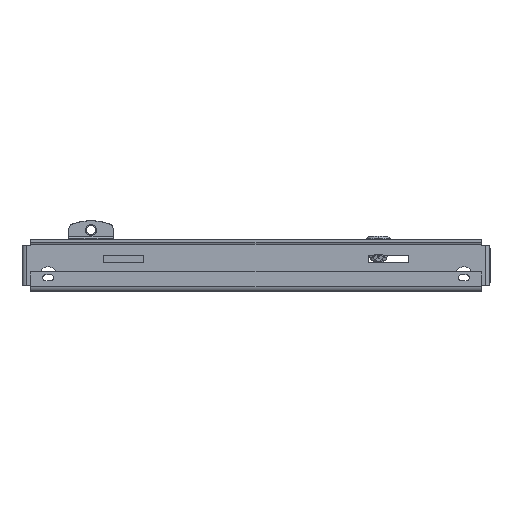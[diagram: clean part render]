
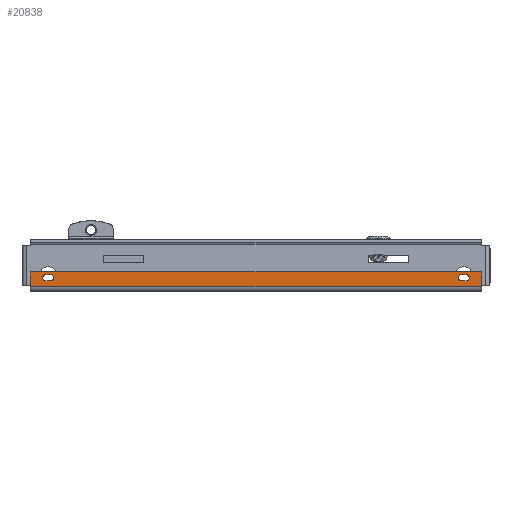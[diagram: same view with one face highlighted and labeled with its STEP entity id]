
A CAD part, front view. The second image highlights one B-rep face of the part: STEP entity #20838.
In plain terms, the highlighted planar face has unit normal (0, -1, 0) as drawn and (0, 0, -1) by its records, which use the part's own axes.
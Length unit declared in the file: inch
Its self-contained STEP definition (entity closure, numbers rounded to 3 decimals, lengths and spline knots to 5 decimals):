
#93 = CARTESIAN_POINT ( 'NONE',  ( 1.3165, 1.8855, 0. ) ) ;
#141 = VERTEX_POINT ( 'NONE', #621 ) ;
#145 = VERTEX_POINT ( 'NONE', #616 ) ;
#148 = VERTEX_POINT ( 'NONE', #609 ) ;
#149 = VERTEX_POINT ( 'NONE', #93 ) ;
#609 = CARTESIAN_POINT ( 'NONE',  ( 20.4495, 1.8855, 0. ) ) ;
#616 = CARTESIAN_POINT ( 'NONE',  ( 1.457, 1.745, 0. ) ) ;
#621 = CARTESIAN_POINT ( 'NONE',  ( 20.59, 1.745, 0. ) ) ;
#1000 = AXIS2_PLACEMENT_3D ( 'NONE', #4822, #4825, #4826 ) ;
#1003 = AXIS2_PLACEMENT_3D ( 'NONE', #4829, #4839, #4840 ) ;
#1011 = AXIS2_PLACEMENT_3D ( 'NONE', #4947, #4950, #4951 ) ;
#1012 = AXIS2_PLACEMENT_3D ( 'NONE', #4944, #4955, #4956 ) ;
#1026 = AXIS2_PLACEMENT_3D ( 'NONE', #5146, #5149, #5150 ) ;
#1037 = AXIS2_PLACEMENT_3D ( 'NONE', #5210, #5212, #5213 ) ;
#1452 = AXIS2_PLACEMENT_3D ( 'NONE', #10161, #10166, #10167 ) ;
#3847 = CIRCLE ( 'NONE', #1000, 0.1405 ) ;
#3856 = CIRCLE ( 'NONE', #1003, 0.1405 ) ;
#3936 = LINE ( 'NONE', #4940, #3937 ) ;
#3937 = VECTOR ( 'NONE', #4941, 39.37008 ) ;
#3946 = CIRCLE ( 'NONE', #1011, 0.1405 ) ;
#3949 = CIRCLE ( 'NONE', #1012, 0.1405 ) ;
#3985 = LINE ( 'NONE', #5008, #3986 ) ;
#3986 = VECTOR ( 'NONE', #5009, 39.37008 ) ;
#4115 = CIRCLE ( 'NONE', #1026, 0.1405 ) ;
#4119 = LINE ( 'NONE', #5157, #4120 ) ;
#4120 = VECTOR ( 'NONE', #5158, 39.37008 ) ;
#4151 = CIRCLE ( 'NONE', #1037, 0.1405 ) ;
#4192 = LINE ( 'NONE', #5291, #4201 ) ;
#4201 = VECTOR ( 'NONE', #5297, 39.37008 ) ;
#4822 = CARTESIAN_POINT ( 'NONE',  ( 20.4495, 1.745, 0. ) ) ;
#4825 = DIRECTION ( 'NONE',  ( 0., 0., 1. ) ) ;
#4826 = DIRECTION ( 'NONE',  ( 1., 0., 0. ) ) ;
#4829 = CARTESIAN_POINT ( 'NONE',  ( 1.3165, 1.745, 0. ) ) ;
#4839 = DIRECTION ( 'NONE',  ( 0., 0., 1. ) ) ;
#4840 = DIRECTION ( 'NONE',  ( 1., 0., 0. ) ) ;
#4940 = CARTESIAN_POINT ( 'NONE',  ( 1.0975, 1.6045, 0. ) ) ;
#4941 = DIRECTION ( 'NONE',  ( 1., 0., 0. ) ) ;
#4944 = CARTESIAN_POINT ( 'NONE',  ( 1.0975, 1.745, 0. ) ) ;
#4947 = CARTESIAN_POINT ( 'NONE',  ( 20.2305, 1.745, 0. ) ) ;
#4950 = DIRECTION ( 'NONE',  ( 0., 0., 1. ) ) ;
#4951 = DIRECTION ( 'NONE',  ( 1., 0., 0. ) ) ;
#4955 = DIRECTION ( 'NONE',  ( 0., 0., 1. ) ) ;
#4956 = DIRECTION ( 'NONE',  ( 1., 0., 0. ) ) ;
#5008 = CARTESIAN_POINT ( 'NONE',  ( 20.2305, 1.8855, 0. ) ) ;
#5009 = DIRECTION ( 'NONE',  ( -1., 0., 0. ) ) ;
#5146 = CARTESIAN_POINT ( 'NONE',  ( 20.4495, 1.745, 0. ) ) ;
#5149 = DIRECTION ( 'NONE',  ( 0., 0., 1. ) ) ;
#5150 = DIRECTION ( 'NONE',  ( 1., 0., 0. ) ) ;
#5157 = CARTESIAN_POINT ( 'NONE',  ( 21.547, 1.476, 0. ) ) ;
#5158 = DIRECTION ( 'NONE',  ( -1., 0., 0. ) ) ;
#5210 = CARTESIAN_POINT ( 'NONE',  ( 1.3165, 1.745, 0. ) ) ;
#5212 = DIRECTION ( 'NONE',  ( 0., 0., 1. ) ) ;
#5213 = DIRECTION ( 'NONE',  ( 1., 0., 0. ) ) ;
#5291 = CARTESIAN_POINT ( 'NONE',  ( 20.2305, 1.6045, 0. ) ) ;
#5297 = DIRECTION ( 'NONE',  ( 1., 0., 0. ) ) ;
#7813 = FACE_BOUND ( 'NONE', #13509, .T. ) ;
#7815 = FACE_OUTER_BOUND ( 'NONE', #13903, .T. ) ;
#7819 = FACE_BOUND ( 'NONE', #13712, .T. ) ;
#10160 = PLANE ( 'NONE',  #1452 ) ;
#10161 = CARTESIAN_POINT ( 'NONE',  ( 21.547, 2.368, 0. ) ) ;
#10166 = DIRECTION ( 'NONE',  ( 0., 0., -1. ) ) ;
#10167 = DIRECTION ( 'NONE',  ( 0., 1., 0. ) ) ;
#13509 = EDGE_LOOP ( 'NONE', ( #16051, #16052, #16289, #16042, #16143 ) ) ;
#13712 = EDGE_LOOP ( 'NONE', ( #16049, #16149, #16053, #16197, #16041 ) ) ;
#13903 = EDGE_LOOP ( 'NONE', ( #16039, #16043, #16188, #16046 ) ) ;
#14873 = CARTESIAN_POINT ( 'NONE',  ( 21.147, 2.368, 0. ) ) ;
#15011 = CARTESIAN_POINT ( 'NONE',  ( 20.2305, 1.6045, 0. ) ) ;
#15204 = CARTESIAN_POINT ( 'NONE',  ( 20.4495, 1.6045, 0. ) ) ;
#15379 = CARTESIAN_POINT ( 'NONE',  ( 0.4, 2.368, 0. ) ) ;
#15521 = CARTESIAN_POINT ( 'NONE',  ( 1.0975, 1.8855, 0. ) ) ;
#15524 = DIRECTION ( 'NONE',  ( -1., 0., 0. ) ) ;
#15643 = CARTESIAN_POINT ( 'NONE',  ( 21.147, 1.476, 0. ) ) ;
#15656 = CARTESIAN_POINT ( 'NONE',  ( 20.2305, 1.8855, 0. ) ) ;
#15689 = CARTESIAN_POINT ( 'NONE',  ( 0.4, 1.476, 0. ) ) ;
#15716 = CARTESIAN_POINT ( 'NONE',  ( 21.147, 2.16, 0. ) ) ;
#15721 = CARTESIAN_POINT ( 'NONE',  ( 0.4, 2.16, 0. ) ) ;
#15740 = CARTESIAN_POINT ( 'NONE',  ( 1.0975, 1.6045, 0. ) ) ;
#15743 = CARTESIAN_POINT ( 'NONE',  ( 1.3165, 1.6045, 0. ) ) ;
#15750 = CARTESIAN_POINT ( 'NONE',  ( 1.0975, 1.8855, 0. ) ) ;
#15809 = DIRECTION ( 'NONE',  ( 0., -1., 0. ) ) ;
#15820 = DIRECTION ( 'NONE',  ( 0., 1., 0. ) ) ;
#15838 = CARTESIAN_POINT ( 'NONE',  ( 21.547, 2.16, 0. ) ) ;
#15840 = DIRECTION ( 'NONE',  ( -1., 0., 0. ) ) ;
#16039 = ORIENTED_EDGE ( 'NONE', *, *, #17657, .T. ) ;
#16041 = ORIENTED_EDGE ( 'NONE', *, *, #17583, .T. ) ;
#16042 = ORIENTED_EDGE ( 'NONE', *, *, #18471, .T. ) ;
#16043 = ORIENTED_EDGE ( 'NONE', *, *, #18623, .T. ) ;
#16046 = ORIENTED_EDGE ( 'NONE', *, *, #17660, .F. ) ;
#16049 = ORIENTED_EDGE ( 'NONE', *, *, #18529, .T. ) ;
#16051 = ORIENTED_EDGE ( 'NONE', *, *, #18527, .T. ) ;
#16052 = ORIENTED_EDGE ( 'NONE', *, *, #18678, .T. ) ;
#16053 = ORIENTED_EDGE ( 'NONE', *, *, #18477, .T. ) ;
#16143 = ORIENTED_EDGE ( 'NONE', *, *, #18552, .T. ) ;
#16149 = ORIENTED_EDGE ( 'NONE', *, *, #18523, .T. ) ;
#16188 = ORIENTED_EDGE ( 'NONE', *, *, #17658, .T. ) ;
#16197 = ORIENTED_EDGE ( 'NONE', *, *, #18644, .T. ) ;
#16289 = ORIENTED_EDGE ( 'NONE', *, *, #18619, .T. ) ;
#16636 = VERTEX_POINT ( 'NONE', #15689 ) ;
#16738 = VERTEX_POINT ( 'NONE', #15643 ) ;
#16747 = VERTEX_POINT ( 'NONE', #15656 ) ;
#16769 = VERTEX_POINT ( 'NONE', #15750 ) ;
#16771 = VERTEX_POINT ( 'NONE', #15740 ) ;
#16772 = VERTEX_POINT ( 'NONE', #15743 ) ;
#16774 = VERTEX_POINT ( 'NONE', #15716 ) ;
#16777 = VERTEX_POINT ( 'NONE', #15721 ) ;
#16781 = VERTEX_POINT ( 'NONE', #15204 ) ;
#16888 = VERTEX_POINT ( 'NONE', #15011 ) ;
#17583 = EDGE_CURVE ( 'NONE', #149, #16769, #21571, .T. ) ;
#17657 = EDGE_CURVE ( 'NONE', #16774, #16738, #21683, .T. ) ;
#17658 = EDGE_CURVE ( 'NONE', #16636, #16777, #21672, .T. ) ;
#17660 = EDGE_CURVE ( 'NONE', #16774, #16777, #21692, .T. ) ;
#18471 = EDGE_CURVE ( 'NONE', #141, #148, #3847, .T. ) ;
#18477 = EDGE_CURVE ( 'NONE', #16772, #145, #3856, .T. ) ;
#18523 = EDGE_CURVE ( 'NONE', #16771, #16772, #3936, .T. ) ;
#18527 = EDGE_CURVE ( 'NONE', #16747, #16888, #3946, .T. ) ;
#18529 = EDGE_CURVE ( 'NONE', #16769, #16771, #3949, .T. ) ;
#18552 = EDGE_CURVE ( 'NONE', #148, #16747, #3985, .T. ) ;
#18619 = EDGE_CURVE ( 'NONE', #16781, #141, #4115, .T. ) ;
#18623 = EDGE_CURVE ( 'NONE', #16738, #16636, #4119, .T. ) ;
#18644 = EDGE_CURVE ( 'NONE', #145, #149, #4151, .T. ) ;
#18678 = EDGE_CURVE ( 'NONE', #16888, #16781, #4192, .T. ) ;
#20838 = ADVANCED_FACE ( 'NONE', ( #7813, #7819, #7815 ), #10160, .T. ) ;
#21571 = LINE ( 'NONE', #15521, #21572 ) ;
#21572 = VECTOR ( 'NONE', #15524, 39.37008 ) ;
#21672 = LINE ( 'NONE', #15379, #21693 ) ;
#21682 = VECTOR ( 'NONE', #15840, 39.37008 ) ;
#21683 = LINE ( 'NONE', #14873, #21691 ) ;
#21691 = VECTOR ( 'NONE', #15809, 39.37008 ) ;
#21692 = LINE ( 'NONE', #15838, #21682 ) ;
#21693 = VECTOR ( 'NONE', #15820, 39.37008 ) ;
